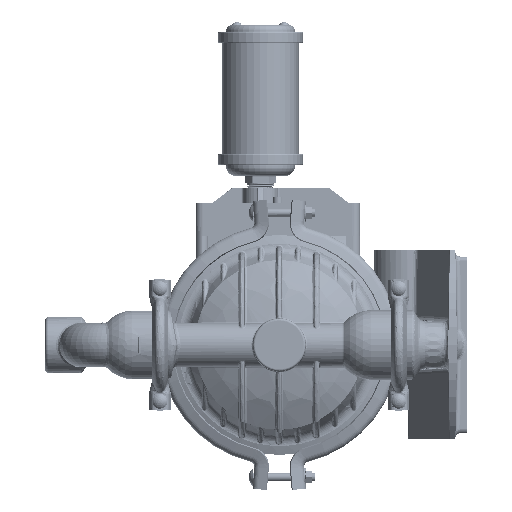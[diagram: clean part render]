
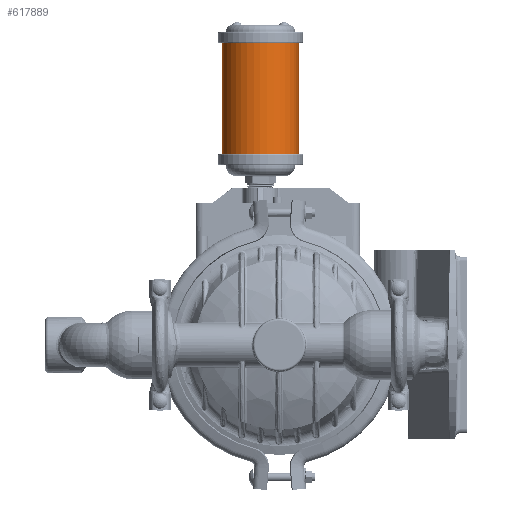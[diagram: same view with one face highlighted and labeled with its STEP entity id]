
A CAD part, left-side view. The second image highlights one B-rep face of the part: STEP entity #617889.
In plain terms, the highlighted cylindrical face has radius 39.243 mm (diameter 78.486 mm), a partial arc.
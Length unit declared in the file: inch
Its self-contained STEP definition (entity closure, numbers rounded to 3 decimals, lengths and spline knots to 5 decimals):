
#483731=DIRECTION('',(0.,0.,1.));
#483732=VECTOR('',#483731,4.479);
#483733=CARTESIAN_POINT('',(-0.013,2.306,7.695));
#483734=LINE('',#483733,#483732);
#483735=DIRECTION('',(0.,0.,1.));
#483736=VECTOR('',#483735,4.479);
#483737=CARTESIAN_POINT('',(-0.013,-0.784,7.695));
#483738=LINE('',#483737,#483736);
#483739=CARTESIAN_POINT('',(-0.013,0.761,7.695));
#483740=DIRECTION('',(0.,0.,1.));
#483741=DIRECTION('',(0.,1.,0.));
#483742=AXIS2_PLACEMENT_3D('',#483739,#483740,#483741);
#483764=CARTESIAN_POINT('',(-0.013,0.761,12.174));
#483765=DIRECTION('',(0.,0.,1.));
#483766=DIRECTION('',(0.,1.,0.));
#483767=AXIS2_PLACEMENT_3D('',#483764,#483765,#483766);
#537640=CARTESIAN_POINT('',(-0.013,2.306,7.695));
#537641=CARTESIAN_POINT('',(-0.013,2.306,12.174));
#537642=VERTEX_POINT('',#537640);
#537643=VERTEX_POINT('',#537641);
#537644=CARTESIAN_POINT('',(-0.013,-0.784,7.695));
#537645=CARTESIAN_POINT('',(-0.013,-0.784,12.174));
#537646=VERTEX_POINT('',#537644);
#537647=VERTEX_POINT('',#537645);
#617875=CARTESIAN_POINT('',(-0.013,0.761,13.199));
#617876=DIRECTION('',(0.,0.,-1.));
#617877=DIRECTION('',(0.,-1.,0.));
#617878=AXIS2_PLACEMENT_3D('',#617875,#617876,#617877);
#617879=CYLINDRICAL_SURFACE('',#617878,1.545);
#617881=ORIENTED_EDGE('',*,*,#617880,.T.);
#617883=ORIENTED_EDGE('',*,*,#617882,.T.);
#617885=ORIENTED_EDGE('',*,*,#617884,.F.);
#617886=ORIENTED_EDGE('',*,*,#617856,.F.);
#617887=EDGE_LOOP('',(#617881,#617883,#617885,#617886));
#617888=FACE_OUTER_BOUND('',#617887,.F.);
#617889=ADVANCED_FACE('',(#617888),#617879,.T.);
#483743=CIRCLE('',#483742,1.545);
#483768=CIRCLE('',#483767,1.545);
#617856=EDGE_CURVE('',#537642,#537646,#483743,.T.);
#617880=EDGE_CURVE('',#537642,#537643,#483734,.T.);
#617882=EDGE_CURVE('',#537643,#537647,#483768,.T.);
#617884=EDGE_CURVE('',#537646,#537647,#483738,.T.);
